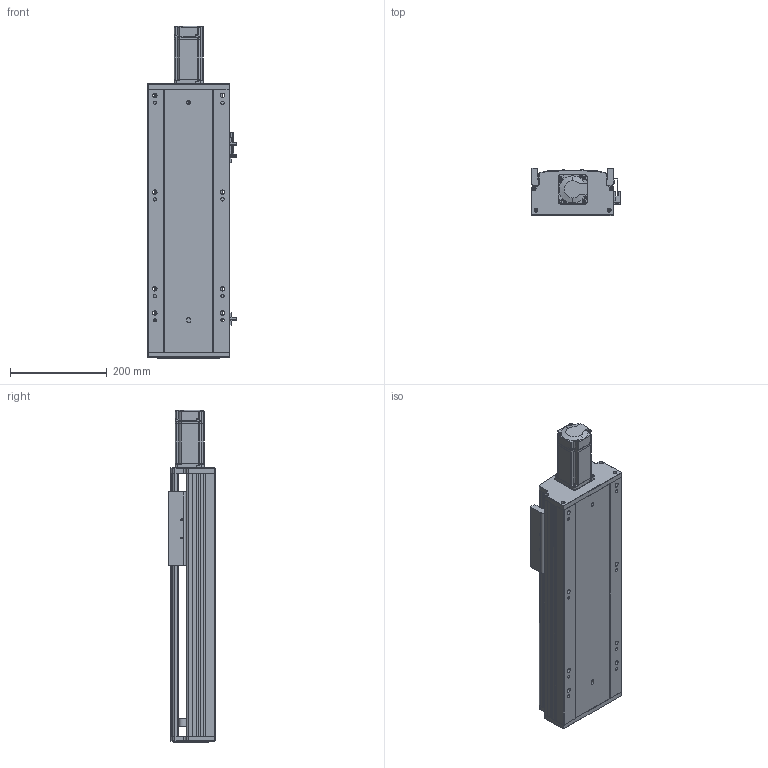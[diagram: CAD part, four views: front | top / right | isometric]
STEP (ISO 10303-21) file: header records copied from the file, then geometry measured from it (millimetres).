
FILE_DESCRIPTION (( 'STEP AP203' ), '1' );
FILE_NAME ('RY170Q-L2020-400-MK.SLDASM_0300.step', '2021-05-31T02:02:10', ( '盈信电脑' ), ( '东莞市道滘镇水果街19号' ), 'SwSTEP 2.0', 'SolidWorks 2016', '' );
FILE_SCHEMA (( 'CONFIG_CONTROL_DESIGN' ));
Length unit declared in the file: millimetre
Products named in the file (12): RY170ヶ醱裔啣; RY170Q-400倰第裔啣-MK_0300; 滅袉蝶18-10; 侂狟400W侜督萇儂; RY170Q-L2020-400-MK.SLDASM_0300; 滅袉蝶18-15; RY170Q臏賑輸20佪裝蹟譫(FK15); RY170綴裔啣; 15; 覜茼ん672; RY170Q-400倰第菁釱-MK_0300; RY170外置感应片(200共用）
Assembly tree (14 placements, depth 3):
  RY170Q-L2020-400-MK.SLDASM_0300
    RY170Q-400倰第菁釱-MK_0300
    RY170Q-400倰第裔啣-MK_0300
    RY170Q臏賑輸20佪裝蹟譫(FK15)
    侂狟400W侜督萇儂
      15
    RY170綴裔啣
    覜茼ん672  x3
    RY170外置感应片(200共用）
    RY170ヶ醱裔啣
    滅袉蝶18-15  x2
    滅袉蝶18-10
Bounding box: 183.7 x 97 x 686.5 mm (x, y, z)
Volume: 3291793.7 mm3; surface area: 1010404.9 mm2
Topology: 13 solids, 13 shells, 2084 faces, 5887 edges, 3819 vertices
Faces by surface type: plane 1185, cylinder 725, cone 145, bspline 29
Entity records: 64774 total; most frequent: CARTESIAN_POINT 13927, ORIENTED_EDGE 10586, DIRECTION 10076, EDGE_CURVE 5293, VECTOR 3504, LINE 3504, VERTEX_POINT 3487, AXIS2_PLACEMENT_3D 3286
